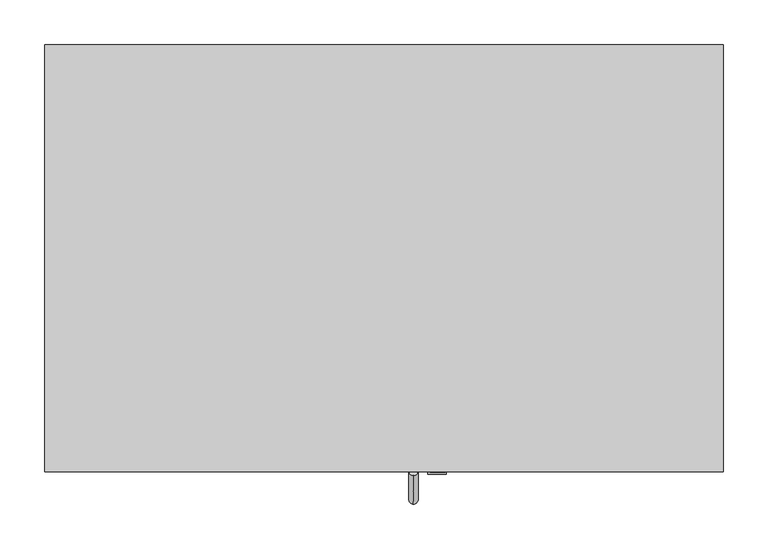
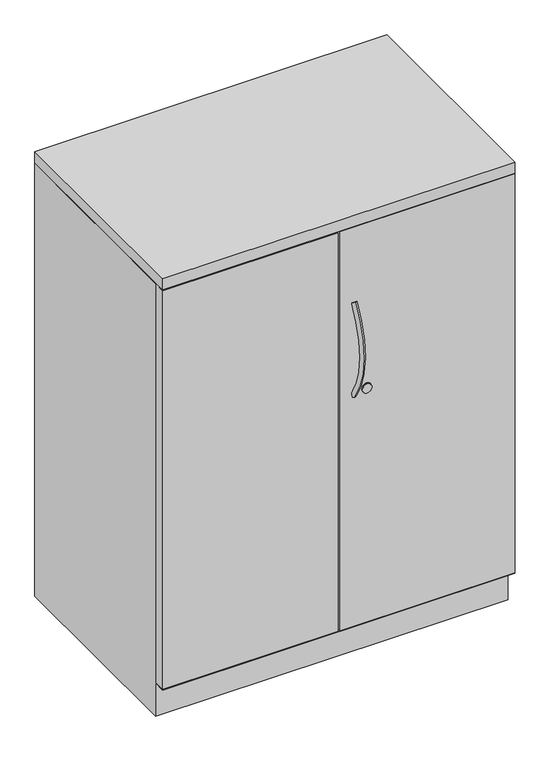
"""IFC4 building model written with IfcOpenShell, lengths in millimetres: furniture geometry, Steelcase - Universal Storage - Cabinet - Storage - 40H-52H - Proud Steel : 40H x 18D x 30W."""

import ifcopenshell
import ifcopenshell.guid

model = None  # the IFC model being written
_history = None  # IfcOwnerHistory: only IFC2X3 demands one
_inside = {}  # id of a spatial element -> (the spatial element, [elements in it])
_under = {}  # id of a project, library or spatial element -> (it, [spatial elements below it])
_declared = {}  # id of a project -> (the project, [libraries it declares])
_typed = {}  # id of a type object -> (the type object, [elements of that type])
_made_of = {}  # id of a material, layer set ... -> (it, [elements and type objects made of it])


def new_model(schema):
    """Start an empty IFC model of exactly this schema.

    Asked for "IFC4X3", IfcOpenShell would pick the latest addendum, in which some entities
    have other attributes; the version numbers below select the first issue.
    IFC2X3 requires an IfcOwnerHistory on every rooted entity: one is made here for all.
    """
    global model, _history
    if schema == "IFC4X3":
        model = ifcopenshell.file(schema_version=(4, 3, 0, 0))
    else:
        model = ifcopenshell.file(schema=schema)
    _inside.clear()
    _under.clear()
    _declared.clear()
    _typed.clear()
    _made_of.clear()
    _history = None
    if model.schema == "IFC2X3":
        org = make("IfcOrganization", Name="unknown")
        user = make(
            "IfcPersonAndOrganization",
            ThePerson=make("IfcPerson", FamilyName="unknown"),
            TheOrganization=org,
        )
        app = make(
            "IfcApplication",
            ApplicationDeveloper=org,
            Version="unknown",
            ApplicationFullName="unknown",
            ApplicationIdentifier="unknown",
        )
        _history = make(
            "IfcOwnerHistory",
            OwningUser=user,
            OwningApplication=app,
            ChangeAction="ADDED",
            CreationDate=0,
        )
    return model


def make(cls, **values):
    """One entity of the class cls with the attributes given. An attribute that is None is left unset."""
    return model.create_entity(
        cls, **{name: value for name, value in values.items() if value is not None}
    )


def rooted(cls, **values):
    """An entity with a GlobalId (a new one), such as an element, a storey or a relation."""
    return make(cls, GlobalId=ifcopenshell.guid.new(), OwnerHistory=_history, **values)


def si_unit(unit_type, name, prefix=None):
    """IfcSIUnit, for example si_unit("LENGTHUNIT", "METRE", prefix="MILLI")."""
    return make("IfcSIUnit", UnitType=unit_type, Prefix=prefix, Name=name)


def assignment(units):
    """IfcUnitAssignment: the units of a project."""
    return None if units is None else make("IfcUnitAssignment", Units=units)


def point(xyz):
    """IfcCartesianPoint."""
    return None if xyz is None else make("IfcCartesianPoint", Coordinates=xyz)


def direction(xyz):
    """IfcDirection."""
    return None if xyz is None else make("IfcDirection", DirectionRatios=xyz)


def frame(location, z_axis=None, x_axis=None):
    """IfcAxis2Placement3D, a coordinate frame: its origin and axes. An axis left out is left unset."""
    return make(
        "IfcAxis2Placement3D",
        Location=point(location),
        Axis=direction(z_axis),
        RefDirection=direction(x_axis),
    )


def frame_2d(location, x_axis=None):
    """IfcAxis2Placement2D, a coordinate frame in the plane: its origin and x axis."""
    return make(
        "IfcAxis2Placement2D", Location=point(location), RefDirection=direction(x_axis)
    )


def origin():
    """The frame at (0, 0, 0) with its axes left unset."""
    return frame((0.0, 0.0, 0.0))


def place(relative_to, where):
    """IfcLocalPlacement: puts the frame where relative to a parent placement (None: the world)."""
    return make(
        "IfcLocalPlacement", PlacementRelTo=relative_to, RelativePlacement=where
    )


def context(
    kind, dimensions, precision=None, world=None, true_north=None, identifier=None
):
    """IfcGeometricRepresentationContext, for example the 3D "Model" context."""
    return make(
        "IfcGeometricRepresentationContext",
        ContextIdentifier=identifier,
        ContextType=kind,
        CoordinateSpaceDimension=dimensions,
        Precision=precision,
        WorldCoordinateSystem=world,
        TrueNorth=true_north,
    )


def project(units=None, contexts=None):
    """IfcProject with its units and contexts."""
    return rooted(
        "IfcProject",
        Name="project",
        RepresentationContexts=contexts,
        UnitsInContext=assignment(units),
    )


def spatial(cls, under=None, at=None, **own):
    """A site, building, storey or space (cls), placed at a placement, below another one or the project."""
    s = rooted(cls, ObjectPlacement=at, **own)
    if under is not None:
        _under.setdefault(under.id(), (under, []))[1].append(s)
    return s


def polyline(points):
    """IfcPolyline through the points."""
    return make("IfcPolyline", Points=[point(p) for p in points])


def circle_curve(where, radius):
    """IfcCircle in the frame where."""
    return make("IfcCircle", Position=where, Radius=radius)


def ellipse_curve(where, semi_axis1, semi_axis2):
    """IfcEllipse in the frame where."""
    return make(
        "IfcEllipse", Position=where, SemiAxis1=semi_axis1, SemiAxis2=semi_axis2
    )


def trimmed(basis, trim1, trim2, sense, master):
    """IfcTrimmedCurve: the piece of a basis curve between two trims."""
    return make(
        "IfcTrimmedCurve",
        BasisCurve=basis,
        Trim1=trim1,
        Trim2=trim2,
        SenseAgreement=sense,
        MasterRepresentation=master,
    )


def segment(curve, same_sense, transition):
    """IfcCompositeCurveSegment."""
    return make(
        "IfcCompositeCurveSegment",
        Transition=transition,
        SameSense=same_sense,
        ParentCurve=curve,
    )


def composite_curve(segments, self_intersect=None):
    """IfcCompositeCurve: segments joined end to end."""
    return make("IfcCompositeCurve", Segments=segments, SelfIntersect=self_intersect)


def outline(outer, holes=None, kind="AREA"):
    """IfcArbitraryClosedProfileDef: a profile drawn as a closed curve; with holes, ...WithVoids."""
    if holes is None:
        return make("IfcArbitraryClosedProfileDef", ProfileType=kind, OuterCurve=outer)
    return make(
        "IfcArbitraryProfileDefWithVoids",
        ProfileType=kind,
        OuterCurve=outer,
        InnerCurves=holes,
    )


def extrude(swept, where, along, depth):
    """IfcExtrudedAreaSolid: the profile swept, set in the frame where, extruded along a direction by depth."""
    return make(
        "IfcExtrudedAreaSolid",
        SweptArea=swept,
        Position=where,
        ExtrudedDirection=direction(along),
        Depth=depth,
    )


def faces_of(points, faces, orient=None, outer=None):
    """IfcFace entities. A face is a list of loops; a loop is a list of indices into points, from 0.

    orient and outer hold one flag for each loop. By default every Orientation is true, the
    first loop of a face is its IfcFaceOuterBound and the others are IfcFaceBound.
    """
    made = []
    for i, loops in enumerate(faces):
        bounds = []
        for j, loop in enumerate(loops):
            is_outer = j == 0 if outer is None else outer[i][j]
            bounds.append(
                make(
                    "IfcFaceOuterBound" if is_outer else "IfcFaceBound",
                    Bound=make("IfcPolyLoop", Polygon=[points[k] for k in loop]),
                    Orientation=True if orient is None else orient[i][j],
                )
            )
        made.append(make("IfcFace", Bounds=bounds))
    return made


def faceted_brep(points, faces, orient=None, outer=None, voids=None):
    """IfcFacetedBrep: a solid bounded by flat faces; with voids (closed shells), ...WithVoids."""
    shared = [point(p) for p in points]
    hull = make("IfcClosedShell", CfsFaces=faces_of(shared, faces, orient, outer))
    if voids is None:
        return make("IfcFacetedBrep", Outer=hull)
    return make(
        "IfcFacetedBrepWithVoids",
        Outer=hull,
        Voids=[
            make(cls, CfsFaces=faces_of(shared, fs, o, b)) for cls, fs, o, b in voids
        ],
    )


def shape(context_of_items, identifier, shape_type, items):
    """IfcShapeRepresentation: the items that make up one representation, for example the "Body"."""
    return make(
        "IfcShapeRepresentation",
        ContextOfItems=context_of_items,
        RepresentationIdentifier=identifier,
        RepresentationType=shape_type,
        Items=items,
    )


def source(mapping_origin, context_of_items, identifier, shape_type, items):
    """IfcRepresentationMap: a shape defined once, which mapped items show again and again."""
    return make(
        "IfcRepresentationMap",
        MappingOrigin=mapping_origin,
        MappedRepresentation=shape(context_of_items, identifier, shape_type, items),
    )


def transform(
    local_origin,
    x_axis=None,
    y_axis=None,
    z_axis=None,
    scale=None,
    scale2=None,
    scale3=None,
    uniform=True,
):
    """IfcCartesianTransformationOperator3D, or its non-uniform kind. x_axis, y_axis, z_axis: its Axis1, 2, 3."""
    if uniform:
        return make(
            "IfcCartesianTransformationOperator3D",
            Axis1=direction(x_axis),
            Axis2=direction(y_axis),
            LocalOrigin=point(local_origin),
            Scale=scale,
            Axis3=direction(z_axis),
        )
    return make(
        "IfcCartesianTransformationOperator3DnonUniform",
        Axis1=direction(x_axis),
        Axis2=direction(y_axis),
        LocalOrigin=point(local_origin),
        Scale=scale,
        Axis3=direction(z_axis),
        Scale2=scale2,
        Scale3=scale3,
    )


def mapped(mapping_source, mapping_target):
    """IfcMappedItem: shows the shape of a source again, moved by a transform."""
    return make(
        "IfcMappedItem", MappingSource=mapping_source, MappingTarget=mapping_target
    )


def made_of(thing, what):
    """Note that an element or type object is made of a material, layer set ...; save() writes the relation."""
    if what is not None:
        _made_of.setdefault(what.id(), (what, []))[1].append(thing)
    return thing


def element(
    cls,
    number,
    at=None,
    inside=None,
    cuts=None,
    type_object=None,
    material=None,
    context=None,
    identifier="Body",
    shape_type=None,
    held_by="IfcProductDefinitionShape",
    body=None,
    shapes=None,
    **own,
):
    """One element of the class cls, such as IfcWall. Its Tag is "e" and its number.

    at: its placement. inside: the storey or other place that contains it. cuts: it is an
    opening in that element (IfcRelVoidsElement). A single representation is given by context,
    identifier, shape_type and body (its items); several are given by shapes. held_by: the class
    of the entity that holds the representations. save() writes the other relations.
    """
    e = rooted(cls, Tag="e%d" % number, ObjectPlacement=at, **own)
    if body is not None:
        shapes = [shape(context, identifier, shape_type, body)]
    if shapes is not None:
        e.Representation = make(held_by, Representations=shapes)
    if inside is not None:
        _inside.setdefault(inside.id(), (inside, []))[1].append(e)
    if cuts is not None:
        rooted(
            "IfcRelVoidsElement", RelatingBuildingElement=cuts, RelatedOpeningElement=e
        )
    if type_object is not None:
        _typed.setdefault(type_object.id(), (type_object, []))[1].append(e)
    return made_of(e, material)


def aggregate(whole, parts):
    """IfcRelAggregates: a whole, such as a stair, and the parts it consists of."""
    return rooted("IfcRelAggregates", RelatingObject=whole, RelatedObjects=parts)


def save(model, path):
    """Write the relations noted so far, then the file.

    IfcRelAggregates (storeys below a building ...), IfcRelContainedInSpatialStructure (elements
    in a storey), IfcRelDefinesByType, IfcRelAssociatesMaterial and IfcRelDeclares: one each for
    every whole, place, type object, material and project.
    """
    for whole, parts in _under.values():
        aggregate(whole, parts)
    for where, things in _inside.values():
        rooted(
            "IfcRelContainedInSpatialStructure",
            RelatedElements=things,
            RelatingStructure=where,
        )
    for kind, things in _typed.values():
        rooted("IfcRelDefinesByType", RelatedObjects=things, RelatingType=kind)
    for what, things in _made_of.values():
        rooted("IfcRelAssociatesMaterial", RelatedObjects=things, RelatingMaterial=what)
    for by, libraries in _declared.values():
        rooted("IfcRelDeclares", RelatingContext=by, RelatedDefinitions=libraries)
    model.write(path)


def plane_surface(at):
    """IfcPlane: the flat surface through the origin of the frame at, square to its z axis."""
    return make("IfcPlane", Position=at)


def revolved_surface(curve, axis_point, axis_direction):
    """IfcSurfaceOfRevolution: the curve turned about the line through axis_point along axis_direction."""
    return make(
        "IfcSurfaceOfRevolution",
        SweptCurve=make("IfcArbitraryOpenProfileDef", ProfileType="CURVE", Curve=curve),
        AxisPosition=make("IfcAxis1Placement", Location=point(axis_point), Axis=direction(axis_direction)),
    )


def advanced_brep(points, edges, surfaces, faces):
    """IfcAdvancedBrep: a solid bounded by faces that lie on surfaces and meet in shared edges.

    An edge is (start, end): straight between two places in points (the first is 0);
    or (start, end, curve); or (start, end, curve, False) where it runs against its curve.
    A face is (place in surfaces, loops), or (place, loops, False) where it looks against
    its surface's normal. A loop lists edges by number (the first is 1), with a minus sign
    where the edge is run from its end to its start. The first loop is the outer one.
    """
    corners = [point(p) for p in points]
    vertices = [make("IfcVertexPoint", VertexGeometry=c) for c in corners]
    made = []
    for start, end, *more in edges:
        made.append(
            make(
                "IfcEdgeCurve",
                EdgeStart=vertices[start],
                EdgeEnd=vertices[end],
                EdgeGeometry=more[0] if more else make("IfcPolyline", Points=[corners[start], corners[end]]),
                SameSense=more[1] if len(more) > 1 else True,
            )
        )
    hull = []
    for where, loops, *sense in faces:
        bounds = []
        for j, loop in enumerate(loops):
            ring = [make("IfcOrientedEdge", EdgeElement=made[abs(k) - 1], Orientation=k > 0) for k in loop]
            bounds.append(
                make(
                    "IfcFaceOuterBound" if j == 0 else "IfcFaceBound",
                    Bound=make("IfcEdgeLoop", EdgeList=ring),
                    Orientation=True,
                )
            )
        hull.append(make("IfcAdvancedFace", Bounds=bounds, FaceSurface=surfaces[where], SameSense=sense[0] if sense else True))
    return make("IfcAdvancedBrep", Outer=make("IfcClosedShell", CfsFaces=hull))


def furniture_c57ef710(model_context):
    return source(origin(), model_context, "Body", "SolidModel", [
        extrude(outline(polyline([(762.0, 0.0), (762.0, -479.552), (0.0, -479.552), (0.0, 0.0), (762.0, 0.0)])), frame((0.0, 0.0, 990.6), z_axis=(0.0, 0.0, 1.0), x_axis=(1.0, 0.0, 0.0)), (0.0, 0.0, 1.0), 25.4),
        extrude(outline(composite_curve([segment(trimmed(circle_curve(frame_2d((612.902, 440.5418131)), 10.16), [point((612.902, 450.7018131))], [point((612.902, 430.3818131))], False, "CARTESIAN"), True, "CONTINUOUS"), segment(trimmed(circle_curve(frame_2d((612.902, 440.5418131)), 10.16), [point((612.902, 430.3818131))], [point((612.902, 450.7018131))], False, "CARTESIAN"), True, "CONTINUOUS")], self_intersect=False)), frame((0.0, -481.965031, 0.0), z_axis=(0.0, 1.0, 0.0), x_axis=(0.0, 0.0, 1.0)), (0.0, 0.0, 1.0), 2.413031),
        advanced_brep(
        [(414.0783765, -474.9744318, 814.9196018), (414.0783765, -483.5741633, 820.5900503), (414.0783765, -472.5471581, 607.1931915), (414.0783765, -481.0120418, 601.3233437)],
        [
            (0, 1, circle_curve(frame((414.0783765, -479.2742976, 817.7548261), z_axis=(0.0, 0.5504787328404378, 0.83484918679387), x_axis=(0.0, -0.83484918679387, 0.5504787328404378)), 5.1504701)),
            (1, 0, circle_curve(frame((414.0783765, -479.2742976, 817.7548261), z_axis=(0.0, 0.5504787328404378, 0.83484918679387), x_axis=(0.0, -0.83484918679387, 0.5504787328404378)), 5.1504701)),
            (2, 3, circle_curve(frame((414.0783765, -476.7796, 604.2582676), z_axis=(0.0, 0.5698361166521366, -0.8217583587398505), x_axis=(0.0, -0.8217583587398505, -0.5698361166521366)), 5.1504701)),
            (3, 2, circle_curve(frame((414.0783765, -476.7796, 604.2582676), z_axis=(0.0, 0.5698361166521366, -0.8217583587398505), x_axis=(0.0, -0.8217583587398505, -0.5698361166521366)), 5.1504701)),
            (3, 1, circle_curve(frame((414.0783765, -320.178461, 712.8509992), z_axis=(-1.0, 0.0, 0.0), x_axis=(0.0, -0.83484918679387, 0.5504787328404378)), 195.7188256)),
            (0, 2, circle_curve(frame((414.0783765, -320.178461, 712.8509992), z_axis=(1.0, 0.0, 0.0), x_axis=(0.0, -0.83484918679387, 0.5504787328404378)), 185.4178854)),
        ],
        [
            plane_surface(frame((414.0783765, -479.2742976, 817.7548261), z_axis=(0.0, 0.5504787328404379, 0.83484918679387), x_axis=(-1.0, 0.0, 0.0))),
            plane_surface(frame((414.0783765, -476.7796, 604.2582676), z_axis=(0.0, 0.5698361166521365, -0.8217583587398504), x_axis=(-1.0, 0.0, 0.0))),
            revolved_surface(trimmed(ellipse_curve(frame((414.0783765, -479.2742976, 817.7548261), z_axis=(0.0, 0.5504787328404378, 0.83484918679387), x_axis=(0.0, -0.83484918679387, 0.5504787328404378)), 5.1504701, 5.1504701), [point((414.0783765, -474.9744318, 814.9196018))], [point((414.0783765, -483.5741633, 820.5900503))], True, "CARTESIAN"), (414.0783765, -320.178461, 712.8509992), (1.0, 0.0, 0.0)),
            revolved_surface(trimmed(ellipse_curve(frame((414.0783765, -479.2742976, 817.7548261), z_axis=(0.0, 0.5504787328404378, 0.83484918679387), x_axis=(0.0, -0.83484918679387, 0.5504787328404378)), 5.1504701, 5.1504701), [point((414.0783765, -483.5741633, 820.5900503))], [point((414.0783765, -474.9744318, 814.9196018))], True, "CARTESIAN"), (414.0783765, -320.178461, 712.8509992), (1.0, 0.0, 0.0)),
        ],
        [
            (0, [[1, 2]]),
            (1, [[3, 4]]),
            (2, [[5, -1, 6, -4]]),
            (3, [[-6, -2, -5, -3]]),
        ],
    ),
        extrude(outline(composite_curve([segment(trimmed(circle_curve(frame_2d((614.5669832, 440.8109835)), 9.7167829), [point((614.5669832, 450.5277664))], [point((614.5669832, 431.0942006))], False, "CARTESIAN"), True, "CONTINUOUS"), segment(trimmed(circle_curve(frame_2d((614.5669832, 440.8109835)), 9.7167829), [point((614.5669832, 431.0942006))], [point((614.5669832, 450.5277664))], False, "CARTESIAN"), True, "CONTINUOUS")], self_intersect=False)), frame((0.0, -480.2215275, 0.0), z_axis=(0.0, 1.0, 0.0), x_axis=(0.0, 0.0, 1.0)), (0.0, 0.0, 1.0), 0.6695275),
        extrude(outline(polyline([(0.0, -479.552), (0.0, -454.1528418), (378.46, -454.1528418), (378.46, -479.552), (0.0, -479.552)])), frame((0.0, 0.0, 77.724), z_axis=(0.0, 0.0, 1.0), x_axis=(1.0, 0.0, 0.0)), (0.0, 0.0, 1.0), 911.352),
        extrude(outline(polyline([(762.0, -454.1528418), (762.0, -479.552), (383.54, -479.552), (383.54, -454.1528418), (762.0, -454.1528418)])), frame((0.0, 0.0, 77.724), z_axis=(0.0, 0.0, 1.0), x_axis=(1.0, 0.0, 0.0)), (0.0, 0.0, 1.0), 911.352),
        faceted_brep([(762.0, 0.0, 0.0), (762.0, -452.6288432, 0.0), (0.0, -452.6288432, 0.0), (0.0, 0.0, 0.0), (0.0, 0.0, 989.076), (762.0, 0.0, 989.076), (0.0, -452.6288432, 76.2), (0.0, -479.552, 76.2), (0.0, -479.552, 77.724), (0.0, -452.6288432, 77.724), (0.0, -452.6288432, 989.076), (762.0, -452.6288432, 76.2), (762.0, -452.6288432, 989.076), (762.0, -452.6288432, 77.724), (762.0, -479.4258418, 77.724), (762.0, -479.552, 76.2), (736.6000242, -25.4000008, 989.076), (736.6000242, -452.6288432, 989.076), (25.3999758, -452.6288432, 989.076), (25.3999758, -25.4000008, 989.076), (736.6000242, -25.4000008, 77.724), (736.6000242, -452.6288432, 77.724), (25.3999758, -452.6288432, 77.724), (25.3999758, -25.4000008, 77.724), (4.6981334, -454.1528418, 77.724), (736.6000242, -454.1528418, 77.724)], [[[0, 1, 2, 3]], [[0, 3, 4, 5]], [[4, 3, 2, 6, 7, 8, 9, 10]], [[2, 1, 11, 6]], [[1, 0, 5, 12, 13, 14, 15, 11]], [[16, 17, 12, 5, 4, 10, 18, 19]], [[17, 16, 20, 21]], [[12, 17, 21, 13]], [[18, 10, 9, 22]], [[19, 18, 22, 23]], [[16, 19, 23, 20]], [[8, 24, 25, 14, 13, 21, 20, 23, 22, 9]], [[15, 7, 6, 11]], [[24, 8, 7]], [[25, 24, 7, 15]], [[14, 25, 15]]]),
    ])


if __name__ == "__main__":
    model = new_model("IFC4")
    model_context = context("Model", 3, world=origin())
    ifc_project = project(units=[si_unit("LENGTHUNIT", "METRE", prefix="MILLI")], contexts=[model_context])
    site = spatial("IfcSite", under=ifc_project)
    building = spatial("IfcBuilding", under=site)
    placement = place(None, origin())
    furniture_shape = furniture_c57ef710(model_context)
    element("IfcFurniture", 1, ObjectType="Steelcase - Universal Storage - Cabinet - Storage - 40H-52H - Proud Steel : 40H x 18D x 30W", at=placement, inside=building, context=model_context, shape_type="MappedRepresentation", body=[
        mapped(furniture_shape, transform((0.0, 0.0, 0.0), x_axis=(1.0, 0.0, 0.0), y_axis=(0.0, 1.0, 0.0), z_axis=(0.0, 0.0, 1.0))),
    ])
    save(model, "model.ifc")
